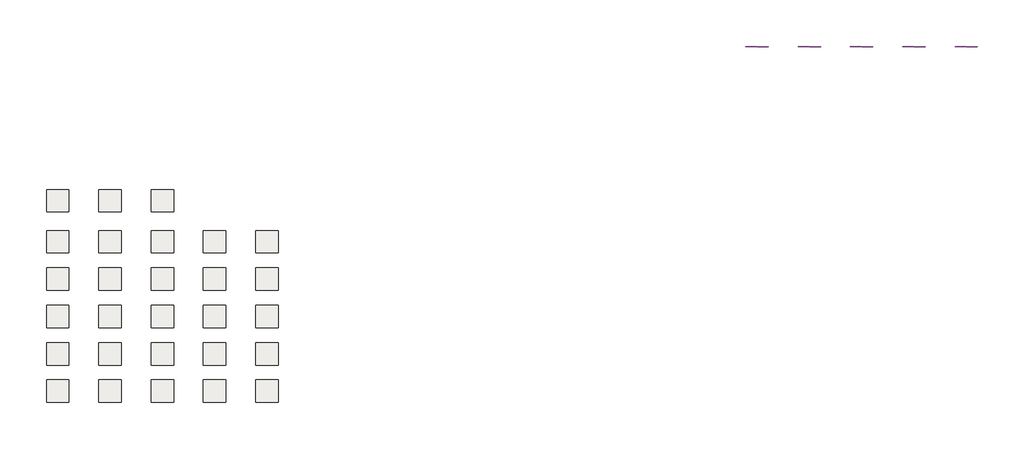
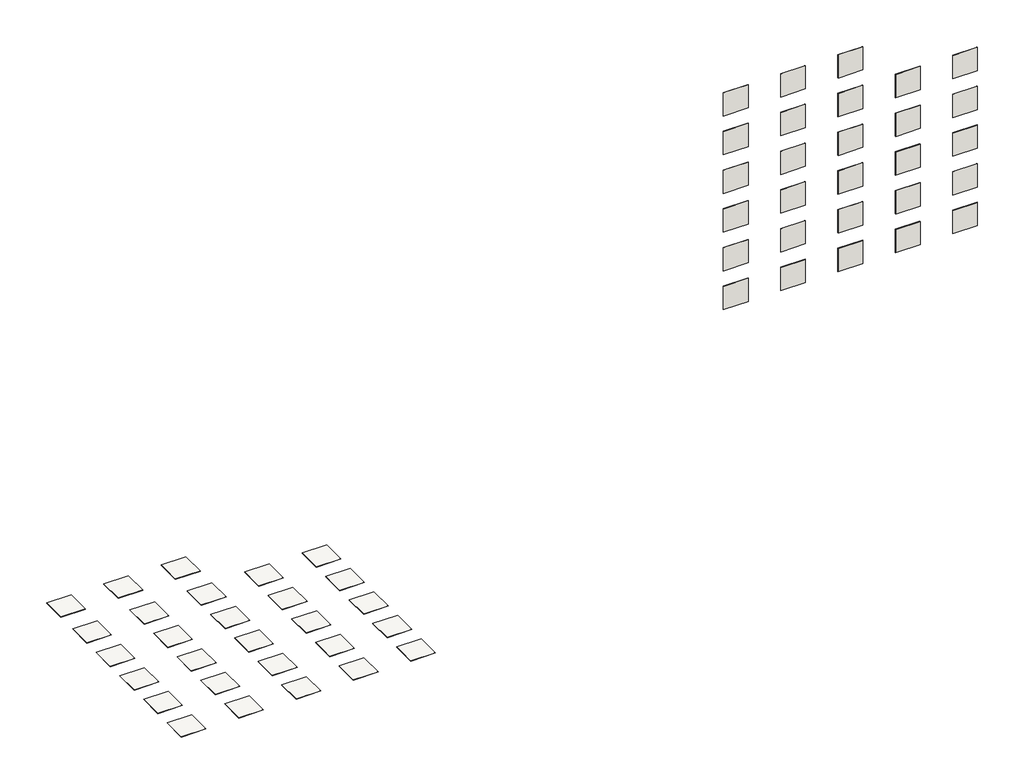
# One storey: 28 slabs, 28 walls.
"""IFC4 building model written with IfcOpenShell, lengths in millimetres."""

import ifcopenshell
import ifcopenshell.guid

model = None  # the IFC model being written
_history = None  # IfcOwnerHistory: only IFC2X3 demands one
_inside = {}  # id of a spatial element -> (the spatial element, [elements in it])
_under = {}  # id of a project, library or spatial element -> (it, [spatial elements below it])
_declared = {}  # id of a project -> (the project, [libraries it declares])
_typed = {}  # id of a type object -> (the type object, [elements of that type])
_made_of = {}  # id of a material, layer set ... -> (it, [elements and type objects made of it])


def new_model(schema):
    """Start an empty IFC model of exactly this schema.

    Asked for "IFC4X3", IfcOpenShell would pick the latest addendum, in which some entities
    have other attributes; the version numbers below select the first issue.
    IFC2X3 requires an IfcOwnerHistory on every rooted entity: one is made here for all.
    """
    global model, _history
    if schema == "IFC4X3":
        model = ifcopenshell.file(schema_version=(4, 3, 0, 0))
    else:
        model = ifcopenshell.file(schema=schema)
    _inside.clear()
    _under.clear()
    _declared.clear()
    _typed.clear()
    _made_of.clear()
    _history = None
    if model.schema == "IFC2X3":
        org = make("IfcOrganization", Name="unknown")
        user = make(
            "IfcPersonAndOrganization",
            ThePerson=make("IfcPerson", FamilyName="unknown"),
            TheOrganization=org,
        )
        app = make(
            "IfcApplication",
            ApplicationDeveloper=org,
            Version="unknown",
            ApplicationFullName="unknown",
            ApplicationIdentifier="unknown",
        )
        _history = make(
            "IfcOwnerHistory",
            OwningUser=user,
            OwningApplication=app,
            ChangeAction="ADDED",
            CreationDate=0,
        )
    return model


def make(cls, **values):
    """One entity of the class cls with the attributes given. An attribute that is None is left unset."""
    return model.create_entity(
        cls, **{name: value for name, value in values.items() if value is not None}
    )


def rooted(cls, **values):
    """An entity with a GlobalId (a new one), such as an element, a storey or a relation."""
    return make(cls, GlobalId=ifcopenshell.guid.new(), OwnerHistory=_history, **values)


def si_unit(unit_type, name, prefix=None):
    """IfcSIUnit, for example si_unit("LENGTHUNIT", "METRE", prefix="MILLI")."""
    return make("IfcSIUnit", UnitType=unit_type, Prefix=prefix, Name=name)


def assignment(units):
    """IfcUnitAssignment: the units of a project."""
    return None if units is None else make("IfcUnitAssignment", Units=units)


def point(xyz):
    """IfcCartesianPoint."""
    return None if xyz is None else make("IfcCartesianPoint", Coordinates=xyz)


def direction(xyz):
    """IfcDirection."""
    return None if xyz is None else make("IfcDirection", DirectionRatios=xyz)


def frame(location, z_axis=None, x_axis=None):
    """IfcAxis2Placement3D, a coordinate frame: its origin and axes. An axis left out is left unset."""
    return make(
        "IfcAxis2Placement3D",
        Location=point(location),
        Axis=direction(z_axis),
        RefDirection=direction(x_axis),
    )


def origin():
    """The frame at (0, 0, 0) with its axes left unset."""
    return frame((0.0, 0.0, 0.0))


def place(relative_to, where):
    """IfcLocalPlacement: puts the frame where relative to a parent placement (None: the world)."""
    return make(
        "IfcLocalPlacement", PlacementRelTo=relative_to, RelativePlacement=where
    )


def context(
    kind, dimensions, precision=None, world=None, true_north=None, identifier=None
):
    """IfcGeometricRepresentationContext, for example the 3D "Model" context."""
    return make(
        "IfcGeometricRepresentationContext",
        ContextIdentifier=identifier,
        ContextType=kind,
        CoordinateSpaceDimension=dimensions,
        Precision=precision,
        WorldCoordinateSystem=world,
        TrueNorth=true_north,
    )


def project(units=None, contexts=None):
    """IfcProject with its units and contexts."""
    return rooted(
        "IfcProject",
        Name="project",
        RepresentationContexts=contexts,
        UnitsInContext=assignment(units),
    )


def spatial(cls, under=None, at=None, **own):
    """A site, building, storey or space (cls), placed at a placement, below another one or the project."""
    s = rooted(cls, ObjectPlacement=at, **own)
    if under is not None:
        _under.setdefault(under.id(), (under, []))[1].append(s)
    return s


def polyline(points):
    """IfcPolyline through the points."""
    return make("IfcPolyline", Points=[point(p) for p in points])


def outline(outer, holes=None, kind="AREA"):
    """IfcArbitraryClosedProfileDef: a profile drawn as a closed curve; with holes, ...WithVoids."""
    if holes is None:
        return make("IfcArbitraryClosedProfileDef", ProfileType=kind, OuterCurve=outer)
    return make(
        "IfcArbitraryProfileDefWithVoids",
        ProfileType=kind,
        OuterCurve=outer,
        InnerCurves=holes,
    )


def extrude(swept, where, along, depth):
    """IfcExtrudedAreaSolid: the profile swept, set in the frame where, extruded along a direction by depth."""
    return make(
        "IfcExtrudedAreaSolid",
        SweptArea=swept,
        Position=where,
        ExtrudedDirection=direction(along),
        Depth=depth,
    )


def shape(context_of_items, identifier, shape_type, items):
    """IfcShapeRepresentation: the items that make up one representation, for example the "Body"."""
    return make(
        "IfcShapeRepresentation",
        ContextOfItems=context_of_items,
        RepresentationIdentifier=identifier,
        RepresentationType=shape_type,
        Items=items,
    )


def made_of(thing, what):
    """Note that an element or type object is made of a material, layer set ...; save() writes the relation."""
    if what is not None:
        _made_of.setdefault(what.id(), (what, []))[1].append(thing)
    return thing


def element(
    cls,
    number,
    at=None,
    inside=None,
    cuts=None,
    type_object=None,
    material=None,
    context=None,
    identifier="Body",
    shape_type=None,
    held_by="IfcProductDefinitionShape",
    body=None,
    shapes=None,
    **own,
):
    """One element of the class cls, such as IfcWall. Its Tag is "e" and its number.

    at: its placement. inside: the storey or other place that contains it. cuts: it is an
    opening in that element (IfcRelVoidsElement). A single representation is given by context,
    identifier, shape_type and body (its items); several are given by shapes. held_by: the class
    of the entity that holds the representations. save() writes the other relations.
    """
    e = rooted(cls, Tag="e%d" % number, ObjectPlacement=at, **own)
    if body is not None:
        shapes = [shape(context, identifier, shape_type, body)]
    if shapes is not None:
        e.Representation = make(held_by, Representations=shapes)
    if inside is not None:
        _inside.setdefault(inside.id(), (inside, []))[1].append(e)
    if cuts is not None:
        rooted(
            "IfcRelVoidsElement", RelatingBuildingElement=cuts, RelatedOpeningElement=e
        )
    if type_object is not None:
        _typed.setdefault(type_object.id(), (type_object, []))[1].append(e)
    return made_of(e, material)


def aggregate(whole, parts):
    """IfcRelAggregates: a whole, such as a stair, and the parts it consists of."""
    return rooted("IfcRelAggregates", RelatingObject=whole, RelatedObjects=parts)


def save(model, path):
    """Write the relations noted so far, then the file.

    IfcRelAggregates (storeys below a building ...), IfcRelContainedInSpatialStructure (elements
    in a storey), IfcRelDefinesByType, IfcRelAssociatesMaterial and IfcRelDeclares: one each for
    every whole, place, type object, material and project.
    """
    for whole, parts in _under.values():
        aggregate(whole, parts)
    for where, things in _inside.values():
        rooted(
            "IfcRelContainedInSpatialStructure",
            RelatedElements=things,
            RelatingStructure=where,
        )
    for kind, things in _typed.values():
        rooted("IfcRelDefinesByType", RelatedObjects=things, RelatingType=kind)
    for what, things in _made_of.values():
        rooted("IfcRelAssociatesMaterial", RelatedObjects=things, RelatingMaterial=what)
    for by, libraries in _declared.values():
        rooted("IfcRelDeclares", RelatingContext=by, RelatedDefinitions=libraries)
    model.write(path)


model = new_model("IFC4")

# Units and contexts
model_context = context("Model", 3, world=origin())
ifc_project = project(units=[si_unit("LENGTHUNIT", "METRE", prefix="MILLI")], contexts=[model_context])

# Site, building, storey
site = spatial("IfcSite", under=ifc_project)
building = spatial("IfcBuilding", under=site)
storey = spatial("IfcBuildingStorey", under=building, Name="BENACO FLOOR TILES", Elevation=0.0)

# Slabs
placement = place(None, origin())
element("IfcSlab", 1, ObjectType="VIVES VODEVIL NACAR 20x20", at=placement, inside=storey, context=model_context, shape_type="SweptSolid", body=[
    extrude(outline(polyline([(-1597.6740217, -3204.9550563), (-1597.6740217, -3804.9550563), (-2197.6740217, -3804.9550563), (-2197.6740217, -3204.9550563), (-1597.6740217, -3204.9550563)])), frame((0.0, 0.0, -8.0), z_axis=(0.0, 0.0, 1.0), x_axis=(1.0, 0.0, 0.0)), (0.0, 0.0, 1.0), 8.0),
])
element("IfcSlab", 2, ObjectType="VIVES VODEVIL ANTRACITA 20x20", at=placement, inside=storey, context=model_context, shape_type="SweptSolid", body=[
    extrude(outline(polyline([(-197.6740217, -3204.9550563), (-197.6740217, -3804.9550563), (-797.6740217, -3804.9550563), (-797.6740217, -3204.9550563), (-197.6740217, -3204.9550563)])), frame((0.0, 0.0, -8.0), z_axis=(0.0, 0.0, 1.0), x_axis=(1.0, 0.0, 0.0)), (0.0, 0.0, 1.0), 8.0),
])
element("IfcSlab", 3, ObjectType="VIVES VODEVIL MARRON 20x20", at=placement, inside=storey, context=model_context, shape_type="SweptSolid", body=[
    extrude(outline(polyline([(1202.3259783, -3204.9550563), (1202.3259783, -3804.9550563), (602.3259783, -3804.9550563), (602.3259783, -3204.9550563), (1202.3259783, -3204.9550563)])), frame((0.0, 0.0, -8.0), z_axis=(0.0, 0.0, 1.0), x_axis=(1.0, 0.0, 0.0)), (0.0, 0.0, 1.0), 8.0),
])
element("IfcSlab", 4, ObjectType="VIVES VODEVIL HUMO 20x20", at=placement, inside=storey, context=model_context, shape_type="SweptSolid", body=[
    extrude(outline(polyline([(-1597.6740217, -4304.9550563), (-1597.6740217, -4904.9550563), (-2197.6740217, -4904.9550563), (-2197.6740217, -4304.9550563), (-1597.6740217, -4304.9550563)])), frame((0.0, 0.0, -8.0), z_axis=(0.0, 0.0, 1.0), x_axis=(1.0, 0.0, 0.0)), (0.0, 0.0, 1.0), 8.0),
])
element("IfcSlab", 5, ObjectType="VIVES VODEVIL NUBE 20x20", at=placement, inside=storey, context=model_context, shape_type="SweptSolid", body=[
    extrude(outline(polyline([(-197.6740217, -4304.9550563), (-197.6740217, -4904.9550563), (-797.6740217, -4904.9550563), (-797.6740217, -4304.9550563), (-197.6740217, -4304.9550563)])), frame((0.0, 0.0, -8.0), z_axis=(0.0, 0.0, 1.0), x_axis=(1.0, 0.0, 0.0)), (0.0, 0.0, 1.0), 8.0),
])
element("IfcSlab", 6, ObjectType="VIVES VODEVIL BEIGE 20x20", at=placement, inside=storey, context=model_context, shape_type="SweptSolid", body=[
    extrude(outline(polyline([(1202.3259783, -4304.9550563), (1202.3259783, -4904.9550563), (602.3259783, -4904.9550563), (602.3259783, -4304.9550563), (1202.3259783, -4304.9550563)])), frame((0.0, 0.0, -8.0), z_axis=(0.0, 0.0, 1.0), x_axis=(1.0, 0.0, 0.0)), (0.0, 0.0, 1.0), 8.0),
])
element("IfcSlab", 7, ObjectType="VIVES VODEVIL CORAL 20x20", at=placement, inside=storey, context=model_context, shape_type="SweptSolid", body=[
    extrude(outline(polyline([(2602.3259783, -4304.9550563), (2602.3259783, -4904.9550563), (2002.3259783, -4904.9550563), (2002.3259783, -4304.9550563), (2602.3259783, -4304.9550563)])), frame((0.0, 0.0, -8.0), z_axis=(0.0, 0.0, 1.0), x_axis=(1.0, 0.0, 0.0)), (0.0, 0.0, 1.0), 8.0),
])
element("IfcSlab", 8, ObjectType="VIVES VODEVIL MAR 20x20", at=placement, inside=storey, context=model_context, shape_type="SweptSolid", body=[
    extrude(outline(polyline([(4002.3259783, -4304.9550563), (4002.3259783, -4904.9550563), (3402.3259783, -4904.9550563), (3402.3259783, -4304.9550563), (4002.3259783, -4304.9550563)])), frame((0.0, 0.0, -8.0), z_axis=(0.0, 0.0, 1.0), x_axis=(1.0, 0.0, 0.0)), (0.0, 0.0, 1.0), 8.0),
])
element("IfcSlab", 9, ObjectType="VIVES BENACO HUMO 20x20", at=placement, inside=storey, context=model_context, shape_type="SweptSolid", body=[
    extrude(outline(polyline([(-1597.6740217, -5304.9550563), (-1597.6740217, -5904.9550563), (-2197.6740217, -5904.9550563), (-2197.6740217, -5304.9550563), (-1597.6740217, -5304.9550563)])), frame((0.0, 0.0, -8.0), z_axis=(0.0, 0.0, 1.0), x_axis=(1.0, 0.0, 0.0)), (0.0, 0.0, 1.0), 8.0),
])
element("IfcSlab", 10, ObjectType="VIVES BENACO NUBE 20x20", at=placement, inside=storey, context=model_context, shape_type="SweptSolid", body=[
    extrude(outline(polyline([(-197.6740217, -5304.9550563), (-197.6740217, -5904.9550563), (-797.6740217, -5904.9550563), (-797.6740217, -5304.9550563), (-197.6740217, -5304.9550563)])), frame((0.0, 0.0, -8.0), z_axis=(0.0, 0.0, 1.0), x_axis=(1.0, 0.0, 0.0)), (0.0, 0.0, 1.0), 8.0),
])
element("IfcSlab", 11, ObjectType="VIVES BENACO BEIGE 20x20", at=placement, inside=storey, context=model_context, shape_type="SweptSolid", body=[
    extrude(outline(polyline([(1202.3259783, -5304.9550563), (1202.3259783, -5904.9550563), (602.3259783, -5904.9550563), (602.3259783, -5304.9550563), (1202.3259783, -5304.9550563)])), frame((0.0, 0.0, -8.0), z_axis=(0.0, 0.0, 1.0), x_axis=(1.0, 0.0, 0.0)), (0.0, 0.0, 1.0), 8.0),
])
element("IfcSlab", 12, ObjectType="VIVES BENACO CORAL 20x20", at=placement, inside=storey, context=model_context, shape_type="SweptSolid", body=[
    extrude(outline(polyline([(2602.3259783, -5304.9550563), (2602.3259783, -5904.9550563), (2002.3259783, -5904.9550563), (2002.3259783, -5304.9550563), (2602.3259783, -5304.9550563)])), frame((0.0, 0.0, -8.0), z_axis=(0.0, 0.0, 1.0), x_axis=(1.0, 0.0, 0.0)), (0.0, 0.0, 1.0), 8.0),
])
element("IfcSlab", 13, ObjectType="VIVES BENACO MAR 20x20", at=placement, inside=storey, context=model_context, shape_type="SweptSolid", body=[
    extrude(outline(polyline([(4002.3259783, -5304.9550563), (4002.3259783, -5904.9550563), (3402.3259783, -5904.9550563), (3402.3259783, -5304.9550563), (4002.3259783, -5304.9550563)])), frame((0.0, 0.0, -8.0), z_axis=(0.0, 0.0, 1.0), x_axis=(1.0, 0.0, 0.0)), (0.0, 0.0, 1.0), 8.0),
])
element("IfcSlab", 14, ObjectType="VIVES CAROLE HUMO 20x20", at=placement, inside=storey, context=model_context, shape_type="SweptSolid", body=[
    extrude(outline(polyline([(-1597.6740217, -6304.9550563), (-1597.6740217, -6904.9550563), (-2197.6740217, -6904.9550563), (-2197.6740217, -6304.9550563), (-1597.6740217, -6304.9550563)])), frame((0.0, 0.0, -8.0), z_axis=(0.0, 0.0, 1.0), x_axis=(1.0, 0.0, 0.0)), (0.0, 0.0, 1.0), 8.0),
])
element("IfcSlab", 15, ObjectType="VIVES CAROLE NUBE 20x20", at=placement, inside=storey, context=model_context, shape_type="SweptSolid", body=[
    extrude(outline(polyline([(-197.6740217, -6304.9550563), (-197.6740217, -6904.9550563), (-797.6740217, -6904.9550563), (-797.6740217, -6304.9550563), (-197.6740217, -6304.9550563)])), frame((0.0, 0.0, -8.0), z_axis=(0.0, 0.0, 1.0), x_axis=(1.0, 0.0, 0.0)), (0.0, 0.0, 1.0), 8.0),
])
element("IfcSlab", 16, ObjectType="VIVES CAROLE BEIGE 20x20", at=placement, inside=storey, context=model_context, shape_type="SweptSolid", body=[
    extrude(outline(polyline([(1202.3259783, -6304.9550563), (1202.3259783, -6904.9550563), (602.3259783, -6904.9550563), (602.3259783, -6304.9550563), (1202.3259783, -6304.9550563)])), frame((0.0, 0.0, -8.0), z_axis=(0.0, 0.0, 1.0), x_axis=(1.0, 0.0, 0.0)), (0.0, 0.0, 1.0), 8.0),
])
element("IfcSlab", 17, ObjectType="VIVES CAROLE CORAL 20x20", at=placement, inside=storey, context=model_context, shape_type="SweptSolid", body=[
    extrude(outline(polyline([(2602.3259783, -6304.9550563), (2602.3259783, -6904.9550563), (2002.3259783, -6904.9550563), (2002.3259783, -6304.9550563), (2602.3259783, -6304.9550563)])), frame((0.0, 0.0, -8.0), z_axis=(0.0, 0.0, 1.0), x_axis=(1.0, 0.0, 0.0)), (0.0, 0.0, 1.0), 8.0),
])
element("IfcSlab", 18, ObjectType="VIVES CAROLE MAR 20x20", at=placement, inside=storey, context=model_context, shape_type="SweptSolid", body=[
    extrude(outline(polyline([(4002.3259783, -6304.9550563), (4002.3259783, -6904.9550563), (3402.3259783, -6904.9550563), (3402.3259783, -6304.9550563), (4002.3259783, -6304.9550563)])), frame((0.0, 0.0, -8.0), z_axis=(0.0, 0.0, 1.0), x_axis=(1.0, 0.0, 0.0)), (0.0, 0.0, 1.0), 8.0),
])
element("IfcSlab", 19, ObjectType="VIVES PIGNETO HUMO 20x20", at=placement, inside=storey, context=model_context, shape_type="SweptSolid", body=[
    extrude(outline(polyline([(-1597.6740217, -7304.9550563), (-1597.6740217, -7904.9550563), (-2197.6740217, -7904.9550563), (-2197.6740217, -7304.9550563), (-1597.6740217, -7304.9550563)])), frame((0.0, 0.0, -8.0), z_axis=(0.0, 0.0, 1.0), x_axis=(1.0, 0.0, 0.0)), (0.0, 0.0, 1.0), 8.0),
])
element("IfcSlab", 20, ObjectType="VIVES PIGNETO NUBE 20x20", at=placement, inside=storey, context=model_context, shape_type="SweptSolid", body=[
    extrude(outline(polyline([(-197.6740217, -7304.9550563), (-197.6740217, -7904.9550563), (-797.6740217, -7904.9550563), (-797.6740217, -7304.9550563), (-197.6740217, -7304.9550563)])), frame((0.0, 0.0, -8.0), z_axis=(0.0, 0.0, 1.0), x_axis=(1.0, 0.0, 0.0)), (0.0, 0.0, 1.0), 8.0),
])
element("IfcSlab", 21, ObjectType="VIVES PIGNETO BEIGE 20x20", at=placement, inside=storey, context=model_context, shape_type="SweptSolid", body=[
    extrude(outline(polyline([(1202.3259783, -7304.9550563), (1202.3259783, -7904.9550563), (602.3259783, -7904.9550563), (602.3259783, -7304.9550563), (1202.3259783, -7304.9550563)])), frame((0.0, 0.0, -8.0), z_axis=(0.0, 0.0, 1.0), x_axis=(1.0, 0.0, 0.0)), (0.0, 0.0, 1.0), 8.0),
])
element("IfcSlab", 22, ObjectType="VIVES PIGNETO CORAL 20x20", at=placement, inside=storey, context=model_context, shape_type="SweptSolid", body=[
    extrude(outline(polyline([(2602.3259783, -7304.9550563), (2602.3259783, -7904.9550563), (2002.3259783, -7904.9550563), (2002.3259783, -7304.9550563), (2602.3259783, -7304.9550563)])), frame((0.0, 0.0, -8.0), z_axis=(0.0, 0.0, 1.0), x_axis=(1.0, 0.0, 0.0)), (0.0, 0.0, 1.0), 8.0),
])
element("IfcSlab", 23, ObjectType="VIVES PIGNETO MAR 20x20", at=placement, inside=storey, context=model_context, shape_type="SweptSolid", body=[
    extrude(outline(polyline([(4002.3259783, -7304.9550563), (4002.3259783, -7904.9550563), (3402.3259783, -7904.9550563), (3402.3259783, -7304.9550563), (4002.3259783, -7304.9550563)])), frame((0.0, 0.0, -8.0), z_axis=(0.0, 0.0, 1.0), x_axis=(1.0, 0.0, 0.0)), (0.0, 0.0, 1.0), 8.0),
])
element("IfcSlab", 24, ObjectType="VIVES TERCELLO HUMO 20x20", at=placement, inside=storey, context=model_context, shape_type="SweptSolid", body=[
    extrude(outline(polyline([(-1597.6740217, -8304.9550563), (-1597.6740217, -8904.9550563), (-2197.6740217, -8904.9550563), (-2197.6740217, -8304.9550563), (-1597.6740217, -8304.9550563)])), frame((0.0, 0.0, -8.0), z_axis=(0.0, 0.0, 1.0), x_axis=(1.0, 0.0, 0.0)), (0.0, 0.0, 1.0), 8.0),
])
element("IfcSlab", 25, ObjectType="VIVES TERCELLO NUBE 20x20", at=placement, inside=storey, context=model_context, shape_type="SweptSolid", body=[
    extrude(outline(polyline([(-197.6740217, -8304.9550563), (-197.6740217, -8904.9550563), (-797.6740217, -8904.9550563), (-797.6740217, -8304.9550563), (-197.6740217, -8304.9550563)])), frame((0.0, 0.0, -8.0), z_axis=(0.0, 0.0, 1.0), x_axis=(1.0, 0.0, 0.0)), (0.0, 0.0, 1.0), 8.0),
])
element("IfcSlab", 26, ObjectType="VIVES TERCELLO BEIGE 20x20", at=placement, inside=storey, context=model_context, shape_type="SweptSolid", body=[
    extrude(outline(polyline([(1202.3259783, -8304.9550563), (1202.3259783, -8904.9550563), (602.3259783, -8904.9550563), (602.3259783, -8304.9550563), (1202.3259783, -8304.9550563)])), frame((0.0, 0.0, -8.0), z_axis=(0.0, 0.0, 1.0), x_axis=(1.0, 0.0, 0.0)), (0.0, 0.0, 1.0), 8.0),
])
element("IfcSlab", 27, ObjectType="VIVES TERCELLO CORAL 20x20", at=placement, inside=storey, context=model_context, shape_type="SweptSolid", body=[
    extrude(outline(polyline([(2602.3259783, -8304.9550563), (2602.3259783, -8904.9550563), (2002.3259783, -8904.9550563), (2002.3259783, -8304.9550563), (2602.3259783, -8304.9550563)])), frame((0.0, 0.0, -8.0), z_axis=(0.0, 0.0, 1.0), x_axis=(1.0, 0.0, 0.0)), (0.0, 0.0, 1.0), 8.0),
])
element("IfcSlab", 28, ObjectType="VIVES TERCELLO MAR 20x20", at=placement, inside=storey, context=model_context, shape_type="SweptSolid", body=[
    extrude(outline(polyline([(4002.3259783, -8304.9550563), (4002.3259783, -8904.9550563), (3402.3259783, -8904.9550563), (3402.3259783, -8304.9550563), (4002.3259783, -8304.9550563)])), frame((0.0, 0.0, -8.0), z_axis=(0.0, 0.0, 1.0), x_axis=(1.0, 0.0, 0.0)), (0.0, 0.0, 1.0), 8.0),
])

# Walls
element("IfcWall", 29, ObjectType="VIVES VODEVIL NACAR 20x20", at=placement, inside=storey, context=model_context, shape_type="SweptSolid", body=[
    extrude(outline(polyline([(17127.8886487, 614.1723362), (16527.8886487, 614.1723362), (16527.8886487, 622.1723362), (17127.8886487, 622.1723362), (17127.8886487, 614.1723362)])), frame((0.0, 0.0, 3700.0), z_axis=(0.0, 0.0, 1.0), x_axis=(1.0, 0.0, 0.0)), (0.0, 0.0, 1.0), 600.0),
])
element("IfcWall", 30, ObjectType="VIVES VODEVIL ANTRACITA 20x20", at=placement, inside=storey, context=model_context, shape_type="SweptSolid", body=[
    extrude(outline(polyline([(18527.8886487, 614.1723362), (17927.8886487, 614.1723362), (17927.8886487, 622.1723362), (18527.8886487, 622.1723362), (18527.8886487, 614.1723362)])), frame((0.0, 0.0, 3700.0), z_axis=(0.0, 0.0, 1.0), x_axis=(1.0, 0.0, 0.0)), (0.0, 0.0, 1.0), 600.0),
])
element("IfcWall", 31, ObjectType="VIVES VODEVIL MARRÓN 20x20", at=placement, inside=storey, context=model_context, shape_type="SweptSolid", body=[
    extrude(outline(polyline([(19927.8886487, 614.1723362), (19327.8886487, 614.1723362), (19327.8886487, 622.1723362), (19927.8886487, 622.1723362), (19927.8886487, 614.1723362)])), frame((0.0, 0.0, 3700.0), z_axis=(0.0, 0.0, 1.0), x_axis=(1.0, 0.0, 0.0)), (0.0, 0.0, 1.0), 600.0),
])
element("IfcWall", 32, ObjectType="VIVES VODEVIL HUMO 20x20", at=placement, inside=storey, context=model_context, shape_type="SweptSolid", body=[
    extrude(outline(polyline([(17127.8886487, 614.1723362), (16527.8886487, 614.1723362), (16527.8886487, 622.1723362), (17127.8886487, 622.1723362), (17127.8886487, 614.1723362)])), frame((0.0, 0.0, 2700.0), z_axis=(0.0, 0.0, 1.0), x_axis=(1.0, 0.0, 0.0)), (0.0, 0.0, 1.0), 600.0),
])
element("IfcWall", 33, ObjectType="VIVES VODEVIL NUBE 20x20", at=placement, inside=storey, context=model_context, shape_type="SweptSolid", body=[
    extrude(outline(polyline([(18527.8886487, 614.1723362), (17927.8886487, 614.1723362), (17927.8886487, 622.1723362), (18527.8886487, 622.1723362), (18527.8886487, 614.1723362)])), frame((0.0, 0.0, 2700.0), z_axis=(0.0, 0.0, 1.0), x_axis=(1.0, 0.0, 0.0)), (0.0, 0.0, 1.0), 600.0),
])
element("IfcWall", 34, ObjectType="VIVES VODEVIL BEIGE 20x20", at=placement, inside=storey, context=model_context, shape_type="SweptSolid", body=[
    extrude(outline(polyline([(19927.8886487, 614.1723362), (19327.8886487, 614.1723362), (19327.8886487, 622.1723362), (19927.8886487, 622.1723362), (19927.8886487, 614.1723362)])), frame((0.0, 0.0, 2700.0), z_axis=(0.0, 0.0, 1.0), x_axis=(1.0, 0.0, 0.0)), (0.0, 0.0, 1.0), 600.0),
])
element("IfcWall", 35, ObjectType="VIVES VODEVIL CORAL 20x20", at=placement, inside=storey, context=model_context, shape_type="SweptSolid", body=[
    extrude(outline(polyline([(21327.8886487, 614.1723362), (20727.8886487, 614.1723362), (20727.8886487, 622.1723362), (21327.8886487, 622.1723362), (21327.8886487, 614.1723362)])), frame((0.0, 0.0, 2700.0), z_axis=(0.0, 0.0, 1.0), x_axis=(1.0, 0.0, 0.0)), (0.0, 0.0, 1.0), 600.0),
])
element("IfcWall", 36, ObjectType="VIVES VODEVIL MAR 20x20", at=placement, inside=storey, context=model_context, shape_type="SweptSolid", body=[
    extrude(outline(polyline([(22727.8886487, 614.1723362), (22127.8886487, 614.1723362), (22127.8886487, 622.1723362), (22727.8886487, 622.1723362), (22727.8886487, 614.1723362)])), frame((0.0, 0.0, 2700.0), z_axis=(0.0, 0.0, 1.0), x_axis=(1.0, 0.0, 0.0)), (0.0, 0.0, 1.0), 600.0),
])
element("IfcWall", 37, ObjectType="VIVES BENACO HUMO 20x20", at=placement, inside=storey, context=model_context, shape_type="SweptSolid", body=[
    extrude(outline(polyline([(17127.8886487, 614.1723362), (16527.8886487, 614.1723362), (16527.8886487, 622.1723362), (17127.8886487, 622.1723362), (17127.8886487, 614.1723362)])), frame((0.0, 0.0, 1700.0), z_axis=(0.0, 0.0, 1.0), x_axis=(1.0, 0.0, 0.0)), (0.0, 0.0, 1.0), 600.0),
])
element("IfcWall", 38, ObjectType="VIVES BENACO NUBE 20x20", at=placement, inside=storey, context=model_context, shape_type="SweptSolid", body=[
    extrude(outline(polyline([(18527.8886487, 614.1723362), (17927.8886487, 614.1723362), (17927.8886487, 622.1723362), (18527.8886487, 622.1723362), (18527.8886487, 614.1723362)])), frame((0.0, 0.0, 1700.0), z_axis=(0.0, 0.0, 1.0), x_axis=(1.0, 0.0, 0.0)), (0.0, 0.0, 1.0), 600.0),
])
element("IfcWall", 39, ObjectType="VIVES BENACO BEIGE 20x20", at=placement, inside=storey, context=model_context, shape_type="SweptSolid", body=[
    extrude(outline(polyline([(19927.8886487, 614.1723362), (19327.8886487, 614.1723362), (19327.8886487, 622.1723362), (19927.8886487, 622.1723362), (19927.8886487, 614.1723362)])), frame((0.0, 0.0, 1700.0), z_axis=(0.0, 0.0, 1.0), x_axis=(1.0, 0.0, 0.0)), (0.0, 0.0, 1.0), 600.0),
])
element("IfcWall", 40, ObjectType="VIVES BENACO CORAL 20x20", at=placement, inside=storey, context=model_context, shape_type="SweptSolid", body=[
    extrude(outline(polyline([(21327.8886487, 614.1723362), (20727.8886487, 614.1723362), (20727.8886487, 622.1723362), (21327.8886487, 622.1723362), (21327.8886487, 614.1723362)])), frame((0.0, 0.0, 1700.0), z_axis=(0.0, 0.0, 1.0), x_axis=(1.0, 0.0, 0.0)), (0.0, 0.0, 1.0), 600.0),
])
element("IfcWall", 41, ObjectType="VIVES BENACO MAR 20x20", at=placement, inside=storey, context=model_context, shape_type="SweptSolid", body=[
    extrude(outline(polyline([(22727.8886487, 614.1723362), (22127.8886487, 614.1723362), (22127.8886487, 622.1723362), (22727.8886487, 622.1723362), (22727.8886487, 614.1723362)])), frame((0.0, 0.0, 1700.0), z_axis=(0.0, 0.0, 1.0), x_axis=(1.0, 0.0, 0.0)), (0.0, 0.0, 1.0), 600.0),
])
element("IfcWall", 42, ObjectType="VIVES CAROLE HUMO 20x20", at=placement, inside=storey, context=model_context, shape_type="SweptSolid", body=[
    extrude(outline(polyline([(17127.8886487, 614.1723362), (16527.8886487, 614.1723362), (16527.8886487, 622.1723362), (17127.8886487, 622.1723362), (17127.8886487, 614.1723362)])), frame((0.0, 0.0, 700.0), z_axis=(0.0, 0.0, 1.0), x_axis=(1.0, 0.0, 0.0)), (0.0, 0.0, 1.0), 600.0),
])
element("IfcWall", 43, ObjectType="VIVES CAROLE NUBE 20x20", at=placement, inside=storey, context=model_context, shape_type="SweptSolid", body=[
    extrude(outline(polyline([(18527.8886487, 614.1723362), (17927.8886487, 614.1723362), (17927.8886487, 622.1723362), (18527.8886487, 622.1723362), (18527.8886487, 614.1723362)])), frame((0.0, 0.0, 700.0), z_axis=(0.0, 0.0, 1.0), x_axis=(1.0, 0.0, 0.0)), (0.0, 0.0, 1.0), 600.0),
])
element("IfcWall", 44, ObjectType="VIVES CAROLE BEIGE 20x20", at=placement, inside=storey, context=model_context, shape_type="SweptSolid", body=[
    extrude(outline(polyline([(19927.8886487, 614.1723362), (19327.8886487, 614.1723362), (19327.8886487, 622.1723362), (19927.8886487, 622.1723362), (19927.8886487, 614.1723362)])), frame((0.0, 0.0, 700.0), z_axis=(0.0, 0.0, 1.0), x_axis=(1.0, 0.0, 0.0)), (0.0, 0.0, 1.0), 600.0),
])
element("IfcWall", 45, ObjectType="VIVES CAROLE CORAL 20x20", at=placement, inside=storey, context=model_context, shape_type="SweptSolid", body=[
    extrude(outline(polyline([(21327.8886487, 614.1723362), (20727.8886487, 614.1723362), (20727.8886487, 622.1723362), (21327.8886487, 622.1723362), (21327.8886487, 614.1723362)])), frame((0.0, 0.0, 700.0), z_axis=(0.0, 0.0, 1.0), x_axis=(1.0, 0.0, 0.0)), (0.0, 0.0, 1.0), 600.0),
])
element("IfcWall", 46, ObjectType="VIVES CAROLE MAR 20x20 2", at=placement, inside=storey, context=model_context, shape_type="SweptSolid", body=[
    extrude(outline(polyline([(22727.8886487, 614.1723362), (22127.8886487, 614.1723362), (22127.8886487, 622.1723362), (22727.8886487, 622.1723362), (22727.8886487, 614.1723362)])), frame((0.0, 0.0, 700.0), z_axis=(0.0, 0.0, 1.0), x_axis=(1.0, 0.0, 0.0)), (0.0, 0.0, 1.0), 600.0),
])
element("IfcWall", 47, ObjectType="VIVES PIGNETO HUMO 20x20", at=placement, inside=storey, context=model_context, shape_type="SweptSolid", body=[
    extrude(outline(polyline([(17127.8886487, 614.1723362), (16527.8886487, 614.1723362), (16527.8886487, 622.1723362), (17127.8886487, 622.1723362), (17127.8886487, 614.1723362)])), frame((0.0, 0.0, -300.0), z_axis=(0.0, 0.0, 1.0), x_axis=(1.0, 0.0, 0.0)), (0.0, 0.0, 1.0), 600.0),
])
element("IfcWall", 48, ObjectType="VIVES PIGNETO NUBE 20x20", at=placement, inside=storey, context=model_context, shape_type="SweptSolid", body=[
    extrude(outline(polyline([(18527.8886487, 614.1723362), (17927.8886487, 614.1723362), (17927.8886487, 622.1723362), (18527.8886487, 622.1723362), (18527.8886487, 614.1723362)])), frame((0.0, 0.0, -300.0), z_axis=(0.0, 0.0, 1.0), x_axis=(1.0, 0.0, 0.0)), (0.0, 0.0, 1.0), 600.0),
])
element("IfcWall", 49, ObjectType="VIVES PIGNETO BEIGE 20x20", at=placement, inside=storey, context=model_context, shape_type="SweptSolid", body=[
    extrude(outline(polyline([(19927.8886487, 614.1723362), (19327.8886487, 614.1723362), (19327.8886487, 622.1723362), (19927.8886487, 622.1723362), (19927.8886487, 614.1723362)])), frame((0.0, 0.0, -300.0), z_axis=(0.0, 0.0, 1.0), x_axis=(1.0, 0.0, 0.0)), (0.0, 0.0, 1.0), 600.0),
])
element("IfcWall", 50, ObjectType="VIVES PIGNETO CORAL 20x20", at=placement, inside=storey, context=model_context, shape_type="SweptSolid", body=[
    extrude(outline(polyline([(21327.8886487, 614.1723362), (20727.8886487, 614.1723362), (20727.8886487, 622.1723362), (21327.8886487, 622.1723362), (21327.8886487, 614.1723362)])), frame((0.0, 0.0, -300.0), z_axis=(0.0, 0.0, 1.0), x_axis=(1.0, 0.0, 0.0)), (0.0, 0.0, 1.0), 600.0),
])
element("IfcWall", 51, ObjectType="VIVES PIGNETO MAR 20x20", at=placement, inside=storey, context=model_context, shape_type="SweptSolid", body=[
    extrude(outline(polyline([(22727.8886487, 614.1723362), (22127.8886487, 614.1723362), (22127.8886487, 622.1723362), (22727.8886487, 622.1723362), (22727.8886487, 614.1723362)])), frame((0.0, 0.0, -300.0), z_axis=(0.0, 0.0, 1.0), x_axis=(1.0, 0.0, 0.0)), (0.0, 0.0, 1.0), 600.0),
])
element("IfcWall", 52, ObjectType="VIVES TERCELLO HUMO 20x20", at=placement, inside=storey, context=model_context, shape_type="SweptSolid", body=[
    extrude(outline(polyline([(17127.8886487, 614.1723362), (16527.8886487, 614.1723362), (16527.8886487, 622.1723362), (17127.8886487, 622.1723362), (17127.8886487, 614.1723362)])), frame((0.0, 0.0, -1300.0), z_axis=(0.0, 0.0, 1.0), x_axis=(1.0, 0.0, 0.0)), (0.0, 0.0, 1.0), 600.0),
])
element("IfcWall", 53, ObjectType="VIVES TERCELLO NUBE 20x20", at=placement, inside=storey, context=model_context, shape_type="SweptSolid", body=[
    extrude(outline(polyline([(18527.8886487, 614.1723362), (17927.8886487, 614.1723362), (17927.8886487, 622.1723362), (18527.8886487, 622.1723362), (18527.8886487, 614.1723362)])), frame((0.0, 0.0, -1300.0), z_axis=(0.0, 0.0, 1.0), x_axis=(1.0, 0.0, 0.0)), (0.0, 0.0, 1.0), 600.0),
])
element("IfcWall", 54, ObjectType="VIVES TERCELLO BEIGE 20x20", at=placement, inside=storey, context=model_context, shape_type="SweptSolid", body=[
    extrude(outline(polyline([(19927.8886487, 614.1723362), (19327.8886487, 614.1723362), (19327.8886487, 622.1723362), (19927.8886487, 622.1723362), (19927.8886487, 614.1723362)])), frame((0.0, 0.0, -1300.0), z_axis=(0.0, 0.0, 1.0), x_axis=(1.0, 0.0, 0.0)), (0.0, 0.0, 1.0), 600.0),
])
element("IfcWall", 55, ObjectType="VIVES TERCELLO CORAL 20x20", at=placement, inside=storey, context=model_context, shape_type="SweptSolid", body=[
    extrude(outline(polyline([(21327.8886487, 614.1723362), (20727.8886487, 614.1723362), (20727.8886487, 622.1723362), (21327.8886487, 622.1723362), (21327.8886487, 614.1723362)])), frame((0.0, 0.0, -1300.0), z_axis=(0.0, 0.0, 1.0), x_axis=(1.0, 0.0, 0.0)), (0.0, 0.0, 1.0), 600.0),
])
element("IfcWall", 56, ObjectType="VIVES TERCELLO MAR 20x20", at=placement, inside=storey, context=model_context, shape_type="SweptSolid", body=[
    extrude(outline(polyline([(22727.8886487, 614.1723362), (22127.8886487, 614.1723362), (22127.8886487, 622.1723362), (22727.8886487, 622.1723362), (22727.8886487, 614.1723362)])), frame((0.0, 0.0, -1300.0), z_axis=(0.0, 0.0, 1.0), x_axis=(1.0, 0.0, 0.0)), (0.0, 0.0, 1.0), 600.0),
])

save(model, "model.ifc")
